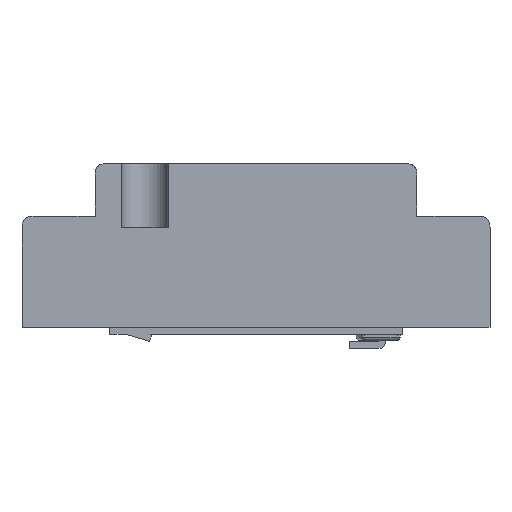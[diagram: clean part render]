
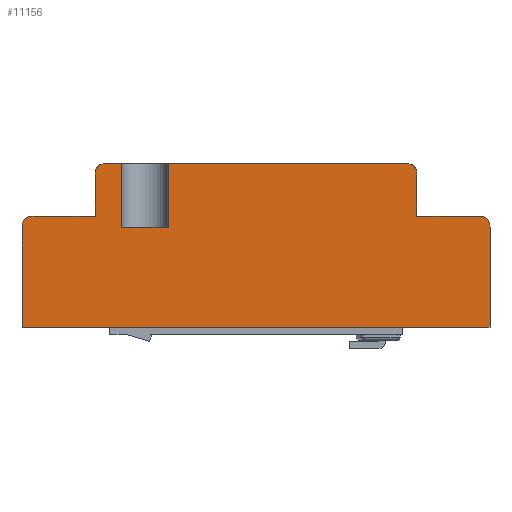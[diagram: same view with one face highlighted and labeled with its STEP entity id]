
A CAD part, front view. The second image highlights one B-rep face of the part: STEP entity #11156.
In plain terms, the highlighted planar face has unit normal (0, -1, 0).
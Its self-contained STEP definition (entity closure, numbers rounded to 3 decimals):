
#2652=CARTESIAN_POINT('',(40.0,-24.,0.0));
#2653=VERTEX_POINT('',#2652);
#2660=CARTESIAN_POINT('',(-40.0,-24.,0.0));
#2661=VERTEX_POINT('',#2660);
#2662=CARTESIAN_POINT('',(40.0,-24.,0.0));
#2663=DIRECTION('',(-1.0,0.0,0.0));
#2664=VECTOR('',#2663,80.0);
#2665=LINE('',#2662,#2664);
#2666=EDGE_CURVE('',#2653,#2661,#2665,.T.);
#10774=CARTESIAN_POINT('',(-15.,-24.,17.0));
#10775=VERTEX_POINT('',#10774);
#10784=CARTESIAN_POINT('',(-15.,-24.,28.0));
#10785=VERTEX_POINT('',#10784);
#10786=CARTESIAN_POINT('',(-15.,-24.,28.0));
#10787=DIRECTION('',(0.0,0.0,-1.0));
#10788=VECTOR('',#10787,11.0);
#10789=LINE('',#10786,#10788);
#10790=EDGE_CURVE('',#10785,#10775,#10789,.T.);
#10847=CARTESIAN_POINT('',(-23.,-24.,17.0));
#10848=VERTEX_POINT('',#10847);
#10856=CARTESIAN_POINT('',(-23.,-24.,28.0));
#10857=VERTEX_POINT('',#10856);
#10864=CARTESIAN_POINT('',(-23.,-24.,17.0));
#10865=DIRECTION('',(0.0,0.0,1.0));
#10866=VECTOR('',#10865,11.0);
#10867=LINE('',#10864,#10866);
#10868=EDGE_CURVE('',#10848,#10857,#10867,.T.);
#10881=CARTESIAN_POINT('',(-15.,-24.,17.0));
#10882=DIRECTION('',(-1.0,0.0,0.0));
#10883=VECTOR('',#10882,8.);
#10884=LINE('',#10881,#10883);
#10885=EDGE_CURVE('',#10775,#10848,#10884,.T.);
#11017=CARTESIAN_POINT('',(40.0,-24.,0.0));
#11018=DIRECTION('',(0.0,-1.0,0.0));
#11019=DIRECTION('',(0.0,0.0,-1.0));
#11020=AXIS2_PLACEMENT_3D('',#11017,#11018,#11019);
#11021=PLANE('',#11020);
#11022=ORIENTED_EDGE('',*,*,#10790,.T.);
#11023=ORIENTED_EDGE('',*,*,#10885,.T.);
#11024=ORIENTED_EDGE('',*,*,#10868,.T.);
#11025=CARTESIAN_POINT('',(-25.5,-24.,28.));
#11026=VERTEX_POINT('',#11025);
#11027=CARTESIAN_POINT('',(-23.,-24.,28.));
#11028=DIRECTION('',(-1.0,0.0,0.0));
#11029=VECTOR('',#11028,2.5);
#11030=LINE('',#11027,#11029);
#11031=EDGE_CURVE('',#10857,#11026,#11030,.T.);
#11032=ORIENTED_EDGE('',*,*,#11031,.T.);
#11033=CARTESIAN_POINT('',(-27.5,-24.,26.));
#11034=VERTEX_POINT('',#11033);
#11035=CARTESIAN_POINT('',(-27.5,-24.,26.));
#11036=CARTESIAN_POINT('',(-27.5,-24.,26.278));
#11037=CARTESIAN_POINT('',(-27.5,-24.,26.589));
#11038=CARTESIAN_POINT('',(-27.319,-24.,27.145));
#11039=CARTESIAN_POINT('',(-27.206,-24.,27.317));
#11040=CARTESIAN_POINT('',(-26.975,-24.,27.587));
#11041=CARTESIAN_POINT('',(-26.823,-24.,27.705));
#11042=CARTESIAN_POINT('',(-26.449,-24.,27.899));
#11043=CARTESIAN_POINT('',(-26.248,-24.,27.947));
#11044=CARTESIAN_POINT('',(-25.88,-24.,28.0));
#11045=CARTESIAN_POINT('',(-25.687,-24.,28.0));
#11046=CARTESIAN_POINT('',(-25.5,-24.,28.0));
#11047=B_SPLINE_CURVE_WITH_KNOTS('',3,(#11035,#11036,#11037,#11038,#11039,#11040,#11041,#11042,#11043,#11044,#11045,#11046),.UNSPECIFIED.,.F.,.U.,(4,2,2,2,2,4),(0.0,0.083,0.146,0.22,0.307,0.412),.UNSPECIFIED.);
#11048=EDGE_CURVE('',#11034,#11026,#11047,.T.);
#11049=ORIENTED_EDGE('',*,*,#11048,.F.);
#11050=CARTESIAN_POINT('',(-27.5,-24.,19.0));
#11051=VERTEX_POINT('',#11050);
#11052=CARTESIAN_POINT('',(-27.5,-24.,19.0));
#11053=DIRECTION('',(0.0,0.0,1.0));
#11054=VECTOR('',#11053,7.);
#11055=LINE('',#11052,#11054);
#11056=EDGE_CURVE('',#11051,#11034,#11055,.T.);
#11057=ORIENTED_EDGE('',*,*,#11056,.F.);
#11058=CARTESIAN_POINT('',(-38.0,-24.,19.0));
#11059=VERTEX_POINT('',#11058);
#11060=CARTESIAN_POINT('',(-27.5,-24.,19.0));
#11061=DIRECTION('',(-1.0,0.0,0.0));
#11062=VECTOR('',#11061,10.5);
#11063=LINE('',#11060,#11062);
#11064=EDGE_CURVE('',#11051,#11059,#11063,.T.);
#11065=ORIENTED_EDGE('',*,*,#11064,.T.);
#11066=CARTESIAN_POINT('',(-40.0,-24.,17.0));
#11067=VERTEX_POINT('',#11066);
#11068=CARTESIAN_POINT('',(-40.,-24.,17.));
#11069=CARTESIAN_POINT('',(-40.,-24.,17.278));
#11070=CARTESIAN_POINT('',(-40.0,-24.,17.589));
#11071=CARTESIAN_POINT('',(-39.819,-24.,18.145));
#11072=CARTESIAN_POINT('',(-39.706,-24.,18.317));
#11073=CARTESIAN_POINT('',(-39.475,-24.,18.587));
#11074=CARTESIAN_POINT('',(-39.323,-24.,18.705));
#11075=CARTESIAN_POINT('',(-38.949,-24.,18.899));
#11076=CARTESIAN_POINT('',(-38.748,-24.,18.947));
#11077=CARTESIAN_POINT('',(-38.38,-24.,19.0));
#11078=CARTESIAN_POINT('',(-38.187,-24.,19.0));
#11079=CARTESIAN_POINT('',(-38.0,-24.,19.0));
#11080=B_SPLINE_CURVE_WITH_KNOTS('',3,(#11068,#11069,#11070,#11071,#11072,#11073,#11074,#11075,#11076,#11077,#11078,#11079),.UNSPECIFIED.,.F.,.U.,(4,2,2,2,2,4),(0.0,0.083,0.146,0.22,0.307,0.412),.UNSPECIFIED.);
#11081=EDGE_CURVE('',#11067,#11059,#11080,.T.);
#11082=ORIENTED_EDGE('',*,*,#11081,.F.);
#11083=CARTESIAN_POINT('',(-40.0,-24.,0.0));
#11084=DIRECTION('',(0.0,0.0,1.0));
#11085=VECTOR('',#11084,17.0);
#11086=LINE('',#11083,#11085);
#11087=EDGE_CURVE('',#2661,#11067,#11086,.T.);
#11088=ORIENTED_EDGE('',*,*,#11087,.F.);
#11089=ORIENTED_EDGE('',*,*,#2666,.F.);
#11090=CARTESIAN_POINT('',(40.0,-24.,17.0));
#11091=VERTEX_POINT('',#11090);
#11092=CARTESIAN_POINT('',(40.0,-24.,0.0));
#11093=DIRECTION('',(0.0,0.0,1.0));
#11094=VECTOR('',#11093,17.0);
#11095=LINE('',#11092,#11094);
#11096=EDGE_CURVE('',#2653,#11091,#11095,.T.);
#11097=ORIENTED_EDGE('',*,*,#11096,.T.);
#11098=CARTESIAN_POINT('',(38.0,-24.,19.0));
#11099=VERTEX_POINT('',#11098);
#11100=CARTESIAN_POINT('',(38.,-24.,19.0));
#11101=CARTESIAN_POINT('',(38.251,-24.,19.0));
#11102=CARTESIAN_POINT('',(38.523,-24.0,19.0));
#11103=CARTESIAN_POINT('',(39.065,-24.0,18.858));
#11104=CARTESIAN_POINT('',(39.245,-24.0,18.751));
#11105=CARTESIAN_POINT('',(39.525,-24.0,18.54));
#11106=CARTESIAN_POINT('',(39.653,-24.0,18.395));
#11107=CARTESIAN_POINT('',(39.869,-24.0,18.03));
#11108=CARTESIAN_POINT('',(39.925,-24.0,17.834));
#11109=CARTESIAN_POINT('',(40.0,-24.0,17.441));
#11110=CARTESIAN_POINT('',(40.,-24.,17.215));
#11111=CARTESIAN_POINT('',(40.,-24.,17.0));
#11112=B_SPLINE_CURVE_WITH_KNOTS('',3,(#11100,#11101,#11102,#11103,#11104,#11105,#11106,#11107,#11108,#11109,#11110,#11111),.UNSPECIFIED.,.F.,.U.,(4,2,2,2,2,4),(0.0,0.075,0.145,0.232,0.334,0.487),.UNSPECIFIED.);
#11113=EDGE_CURVE('',#11099,#11091,#11112,.T.);
#11114=ORIENTED_EDGE('',*,*,#11113,.F.);
#11115=CARTESIAN_POINT('',(27.5,-24.,19.0));
#11116=VERTEX_POINT('',#11115);
#11117=CARTESIAN_POINT('',(38.0,-24.,19.0));
#11118=DIRECTION('',(-1.0,0.0,0.0));
#11119=VECTOR('',#11118,10.5);
#11120=LINE('',#11117,#11119);
#11121=EDGE_CURVE('',#11099,#11116,#11120,.T.);
#11122=ORIENTED_EDGE('',*,*,#11121,.T.);
#11123=CARTESIAN_POINT('',(27.5,-24.,26.));
#11124=VERTEX_POINT('',#11123);
#11125=CARTESIAN_POINT('',(27.5,-24.,19.0));
#11126=DIRECTION('',(0.0,0.0,1.0));
#11127=VECTOR('',#11126,7.);
#11128=LINE('',#11125,#11127);
#11129=EDGE_CURVE('',#11116,#11124,#11128,.T.);
#11130=ORIENTED_EDGE('',*,*,#11129,.T.);
#11131=CARTESIAN_POINT('',(25.5,-24.,28.));
#11132=VERTEX_POINT('',#11131);
#11133=CARTESIAN_POINT('',(25.5,-24.,28.0));
#11134=CARTESIAN_POINT('',(25.751,-24.,28.0));
#11135=CARTESIAN_POINT('',(26.023,-24.0,28.0));
#11136=CARTESIAN_POINT('',(26.565,-24.0,27.858));
#11137=CARTESIAN_POINT('',(26.745,-24.0,27.751));
#11138=CARTESIAN_POINT('',(27.025,-24.0,27.54));
#11139=CARTESIAN_POINT('',(27.153,-24.0,27.395));
#11140=CARTESIAN_POINT('',(27.369,-24.0,27.03));
#11141=CARTESIAN_POINT('',(27.425,-24.0,26.834));
#11142=CARTESIAN_POINT('',(27.5,-24.0,26.441));
#11143=CARTESIAN_POINT('',(27.5,-24.,26.215));
#11144=CARTESIAN_POINT('',(27.5,-24.,26.));
#11145=B_SPLINE_CURVE_WITH_KNOTS('',3,(#11133,#11134,#11135,#11136,#11137,#11138,#11139,#11140,#11141,#11142,#11143,#11144),.UNSPECIFIED.,.F.,.U.,(4,2,2,2,2,4),(0.0,0.075,0.145,0.232,0.334,0.487),.UNSPECIFIED.);
#11146=EDGE_CURVE('',#11132,#11124,#11145,.T.);
#11147=ORIENTED_EDGE('',*,*,#11146,.F.);
#11148=CARTESIAN_POINT('',(25.5,-24.,28.));
#11149=DIRECTION('',(-1.0,0.0,0.0));
#11150=VECTOR('',#11149,40.5);
#11151=LINE('',#11148,#11150);
#11152=EDGE_CURVE('',#11132,#10785,#11151,.T.);
#11153=ORIENTED_EDGE('',*,*,#11152,.T.);
#11154=EDGE_LOOP('',(#11022,#11023,#11024,#11032,#11049,#11057,#11065,#11082,#11088,#11089,#11097,#11114,#11122,#11130,#11147,#11153));
#11155=FACE_OUTER_BOUND('',#11154,.T.);
#11156=ADVANCED_FACE('',(#11155),#11021,.T.);
